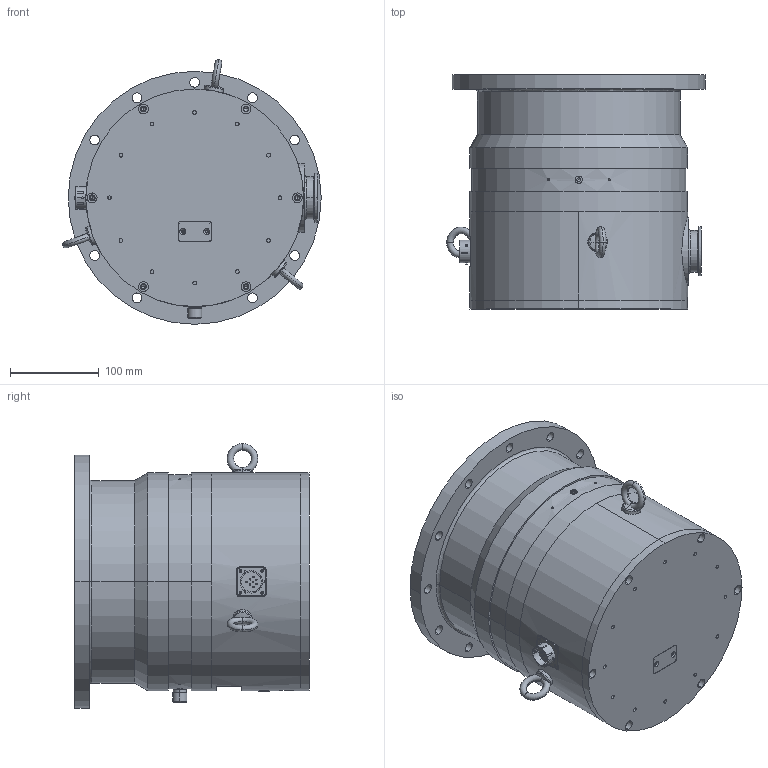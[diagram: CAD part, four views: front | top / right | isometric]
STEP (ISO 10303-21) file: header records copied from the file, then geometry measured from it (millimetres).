
FILE_DESCRIPTION (( 'STEP AP203' ), '1' );
FILE_NAME ('869-8962R001.STEP', '2012-05-23T14:25:06', ( 'Paolo Cibrario' ), ( 'Agilent Technologies' ), 'SwSTEP 2.0', 'SolidWorks 2012', '' );
FILE_SCHEMA (( 'CONFIG_CONTROL_DESIGN' ));
Length unit declared in the file: millimetre
Products named in the file (1): 869-8962R001
Bounding box: 291 x 263.6 x 297.96 mm (x, y, z)
Volume: 6588766.8 mm3; surface area: 791412.5 mm2
Topology: 14 solids, 14 shells, 1059 faces, 2593 edges, 1586 vertices
Faces by surface type: cylinder 539, plane 220, cone 171, bspline 111, torus 18
Entity records: 42766 total; most frequent: CARTESIAN_POINT 17957, DIRECTION 5383, ORIENTED_EDGE 4974, EDGE_CURVE 2487, AXIS2_PLACEMENT_3D 2228, VERTEX_POINT 1586, EDGE_LOOP 1337, CIRCLE 1279
